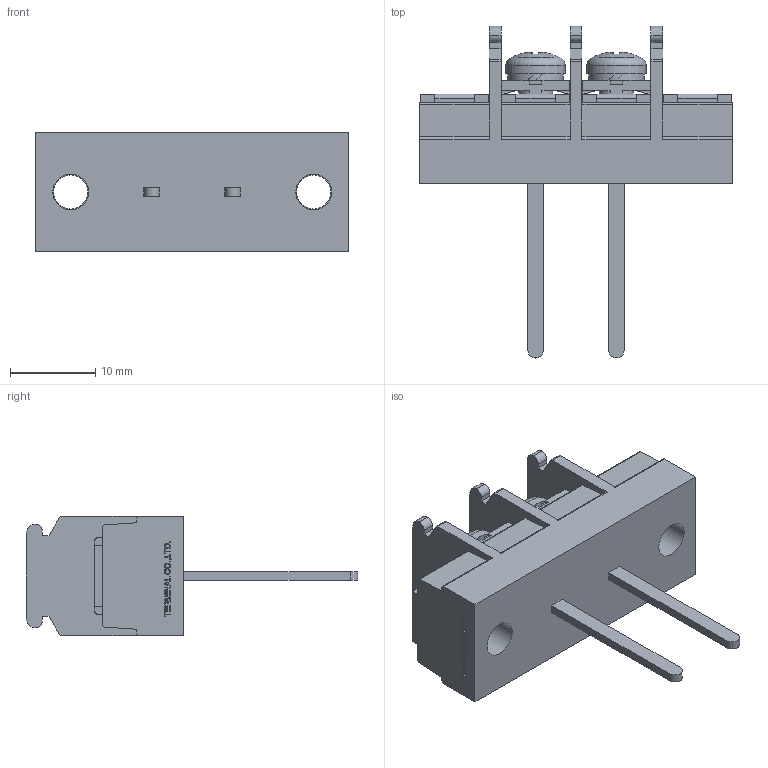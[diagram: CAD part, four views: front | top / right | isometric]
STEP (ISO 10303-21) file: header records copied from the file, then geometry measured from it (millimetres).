
FILE_DESCRIPTION(/* description */ ('Alibre Inc.'),/* implementation_level */ '2;1');
FILE_NAME(/* name */ 'export-A7054FB3-7AC6-4F5E-84F3-95C9774B8979',/* time_stamp */ '2021-02-13T17:29:14+09:00',/* author */ (''),/* organization */ (''),/* preprocessor_version */ 'ST-DEVELOPER v17',/* originating_system */ 'Alibre',/* authorisation */ '');
FILE_SCHEMA (('CONFIG_CONTROL_DESIGN'));
Length unit declared in the file: millimetre
Bounding box: 36.7 x 39 x 14 mm (x, y, z)
Volume: 5516.5 mm3; surface area: 3948.7 mm2
Topology: 1 solids, 19 shells, 686 faces, 1856 edges, 1228 vertices
Faces by surface type: plane 502, bspline 104, cylinder 64, cone 10, torus 4, sphere 2
Full cylindrical faces by diameter (mm): 4 x6, 4.2 x2, 7 x2
Entity records: 20701 total; most frequent: CARTESIAN_POINT 4680, ORIENTED_EDGE 3668, DIRECTION 2402, EDGE_CURVE 1834, VECTOR 1384, LINE 1384, VERTEX_POINT 1222, EDGE_LOOP 750
